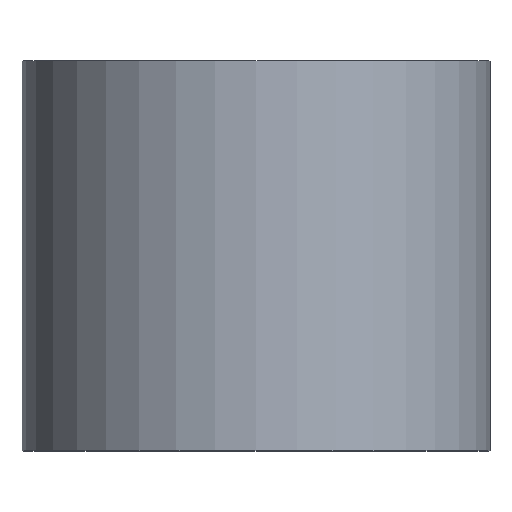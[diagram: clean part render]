
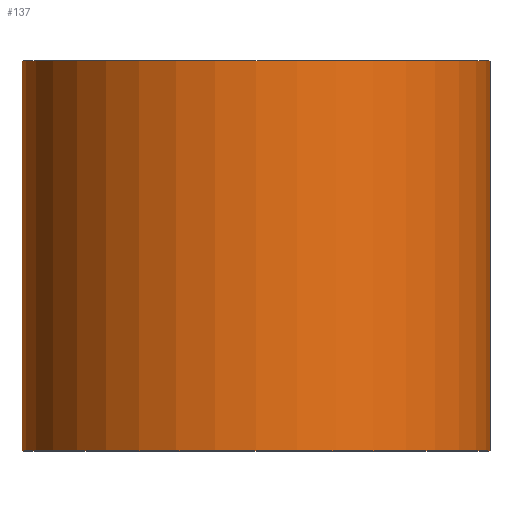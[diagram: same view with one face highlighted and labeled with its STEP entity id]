
A CAD part, top view. The second image highlights one B-rep face of the part: STEP entity #137.
In plain terms, the highlighted cylindrical face has radius 6 mm (diameter 12 mm), a partial arc.
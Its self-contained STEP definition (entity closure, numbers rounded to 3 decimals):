
#1 = EDGE_CURVE ( 'NONE', #129, #179, #278, .T. ) ;
#8 = CIRCLE ( 'NONE', #155, 6. ) ;
#11 = ORIENTED_EDGE ( 'NONE', *, *, #70, .F. ) ;
#16 = FACE_OUTER_BOUND ( 'NONE', #284, .T. ) ;
#19 = DIRECTION ( 'NONE',  ( -1., 0., 0. ) ) ;
#20 = DIRECTION ( 'NONE',  ( 0., 1., 0. ) ) ;
#31 = ORIENTED_EDGE ( 'NONE', *, *, #1, .T. ) ;
#38 = DIRECTION ( 'NONE',  ( -1., 0., 0. ) ) ;
#53 = CARTESIAN_POINT ( 'NONE',  ( 6., 10., 0. ) ) ;
#54 = CARTESIAN_POINT ( 'NONE',  ( -6., 10., 0. ) ) ;
#57 = AXIS2_PLACEMENT_3D ( 'NONE', #234, #143, #19 ) ;
#70 = EDGE_CURVE ( 'NONE', #129, #107, #298, .T. ) ;
#98 = VECTOR ( 'NONE', #283, 1000. ) ;
#106 = CARTESIAN_POINT ( 'NONE',  ( -6., 0., 0. ) ) ;
#107 = VERTEX_POINT ( 'NONE', #54 ) ;
#129 = VERTEX_POINT ( 'NONE', #293 ) ;
#137 = ADVANCED_FACE ( 'NONE', ( #16 ), #248, .T. ) ;
#143 = DIRECTION ( 'NONE',  ( 0., 1., 0. ) ) ;
#144 = VERTEX_POINT ( 'NONE', #53 ) ;
#155 = AXIS2_PLACEMENT_3D ( 'NONE', #297, #174, #38 ) ;
#160 = CARTESIAN_POINT ( 'NONE',  ( 0., 0., 0. ) ) ;
#168 = AXIS2_PLACEMENT_3D ( 'NONE', #160, #291, #260 ) ;
#174 = DIRECTION ( 'NONE',  ( 0., 1., 0. ) ) ;
#179 = VERTEX_POINT ( 'NONE', #221 ) ;
#184 = ORIENTED_EDGE ( 'NONE', *, *, #233, .T. ) ;
#191 = VECTOR ( 'NONE', #20, 1000. ) ;
#204 = LINE ( 'NONE', #237, #191 ) ;
#221 = CARTESIAN_POINT ( 'NONE',  ( 6., 0., 0. ) ) ;
#233 = EDGE_CURVE ( 'NONE', #179, #144, #204, .T. ) ;
#234 = CARTESIAN_POINT ( 'NONE',  ( 0., 0., 0. ) ) ;
#237 = CARTESIAN_POINT ( 'NONE',  ( 6., 0., 0. ) ) ;
#248 = CYLINDRICAL_SURFACE ( 'NONE', #57, 6. ) ;
#260 = DIRECTION ( 'NONE',  ( -1., 0., 0. ) ) ;
#278 = CIRCLE ( 'NONE', #168, 6. ) ;
#279 = ORIENTED_EDGE ( 'NONE', *, *, #280, .F. ) ;
#280 = EDGE_CURVE ( 'NONE', #107, #144, #8, .T. ) ;
#283 = DIRECTION ( 'NONE',  ( 0., 1., 0. ) ) ;
#284 = EDGE_LOOP ( 'NONE', ( #31, #184, #279, #11 ) ) ;
#291 = DIRECTION ( 'NONE',  ( 0., 1., 0. ) ) ;
#293 = CARTESIAN_POINT ( 'NONE',  ( -6., 0., 0. ) ) ;
#297 = CARTESIAN_POINT ( 'NONE',  ( 0., 10., 0. ) ) ;
#298 = LINE ( 'NONE', #106, #98 ) ;
